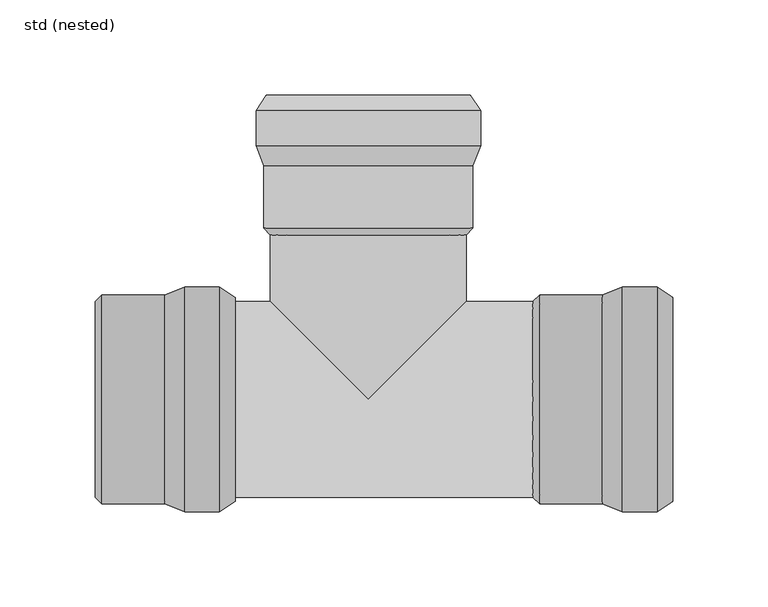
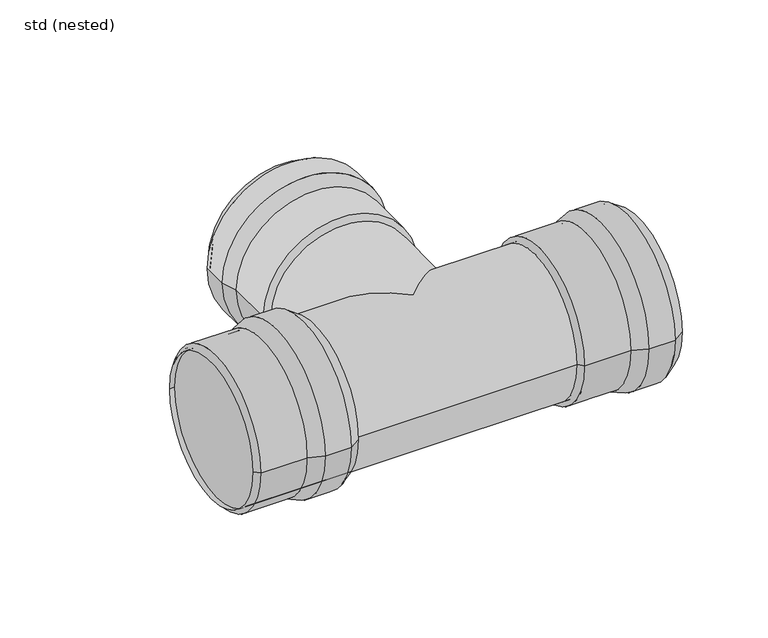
"""IFC4 building model written with IfcOpenShell, lengths in millimetres: pipe fitting geometry, ZZZ_do not use_PIF_ST_UN_GM-X single branch_ACO : std (nested)."""

from ifc_helpers import new_model, si_unit, frame, origin, place, context, project, spatial, polyline, circle_curve, ellipse_curve, source, transform, mapped, element, save
from ifc_brep_helpers import plane_surface, cylinder_surface, revolved_surface, advanced_brep


def std_nested_a7445f1e(model_context):
    return source(origin(), model_context, "Body", "AdvancedBrep", [
        advanced_brep(
        [(-96.5, 59.0, 0.0), (-96.5, -59.0, 0.0), (-78.3, -59.0, 0.0), (-78.3, 59.0, 0.0), (-107.0, 55.0, 0.0), (-107.0, -55.0, 0.0), (-70.0, -53.5, 0.0), (-70.0, 53.5, 0.0), (-140.0, 55.0, 0.0), (-140.0, -55.0, 0.0), (-143.5, 51.5, 0.0), (-143.5, -51.5, 0.0), (-140.0, 51.5, 0.0), (-140.0, -51.5, 0.0), (-106.6319487, 53.0, 0.0), (-106.6319487, -53.0, 0.0), (-140.0, -53.0, 0.0), (-140.0, 53.0, 0.0), (-96.1319487, 57.0, 0.0), (-96.1319487, -57.0, 0.0), (-78.9025117, 57.0, 0.0), (-78.9025117, -57.0, 0.0), (-71.1047607, 51.8328156, 0.0), (-71.1047607, -51.8328156, 0.0)],
        [
            (0, 1, circle_curve(frame((-96.5, 0.0, 0.0), z_axis=(1.0, 0.0, 0.0), x_axis=(0.0, -1.0, 0.0)), 59.0)),
            (1, 2),
            (2, 3, circle_curve(frame((-78.3, 0.0, 0.0), z_axis=(-1.0, 0.0, 0.0), x_axis=(0.0, -1.0, 0.0)), 59.0)),
            (3, 0),
            (1, 0, circle_curve(frame((-96.5, 0.0, 0.0), z_axis=(1.0, 0.0, 0.0), x_axis=(0.0, -1.0, 0.0)), 59.0)),
            (3, 2, circle_curve(frame((-78.3, 0.0, 0.0), z_axis=(-1.0, 0.0, 0.0), x_axis=(0.0, -1.0, 0.0)), 59.0)),
            (4, 5, circle_curve(frame((-107.0, 0.0, 0.0), z_axis=(1.0, 0.0, 0.0), x_axis=(0.0, -1.0, 0.0)), 55.0)),
            (5, 1),
            (0, 4),
            (5, 4, circle_curve(frame((-107.0, 0.0, 0.0), z_axis=(1.0, 0.0, 0.0), x_axis=(0.0, -1.0, 0.0)), 55.0)),
            (2, 6),
            (6, 7, circle_curve(frame((-70.0, 0.0, 0.0), z_axis=(-1.0, 0.0, 0.0), x_axis=(0.0, -1.0, 0.0)), 53.5)),
            (7, 3),
            (7, 6, circle_curve(frame((-70.0, 0.0, 0.0), z_axis=(-1.0, 0.0, 0.0), x_axis=(0.0, -1.0, 0.0)), 53.5)),
            (8, 9, circle_curve(frame((-140.0, 0.0, 0.0), z_axis=(1.0, 0.0, 0.0), x_axis=(0.0, -1.0, 0.0)), 55.0)),
            (9, 5),
            (4, 8),
            (9, 8, circle_curve(frame((-140.0, 0.0, 0.0), z_axis=(1.0, 0.0, 0.0), x_axis=(0.0, -1.0, 0.0)), 55.0)),
            (10, 11, circle_curve(frame((-143.5, 0.0, 0.0), z_axis=(1.0, 0.0, 0.0), x_axis=(0.0, -1.0, 0.0)), 51.5)),
            (11, 9),
            (8, 10),
            (11, 10, circle_curve(frame((-143.5, 0.0, 0.0), z_axis=(1.0, 0.0, 0.0), x_axis=(0.0, -1.0, 0.0)), 51.5)),
            (12, 13, circle_curve(frame((-140.0, 0.0, 0.0), z_axis=(1.0, 0.0, 0.0), x_axis=(0.0, -1.0, 0.0)), 51.5)),
            (13, 11),
            (10, 12),
            (13, 12, circle_curve(frame((-140.0, 0.0, 0.0), z_axis=(1.0, 0.0, 0.0), x_axis=(0.0, -1.0, 0.0)), 51.5)),
            (14, 15, circle_curve(frame((-106.6319487, 0.0, 0.0), z_axis=(1.0, 0.0, 0.0), x_axis=(0.0, -1.0, 0.0)), 53.0)),
            (15, 16),
            (16, 17, circle_curve(frame((-140.0, 0.0, 0.0), z_axis=(-1.0, 0.0, 0.0), x_axis=(0.0, -1.0, 0.0)), 53.0)),
            (17, 14),
            (15, 14, circle_curve(frame((-106.6319487, 0.0, 0.0), z_axis=(1.0, 0.0, 0.0), x_axis=(0.0, -1.0, 0.0)), 53.0)),
            (17, 16, circle_curve(frame((-140.0, 0.0, 0.0), z_axis=(-1.0, 0.0, 0.0), x_axis=(0.0, -1.0, 0.0)), 53.0)),
            (18, 19, circle_curve(frame((-96.1319487, 0.0, 0.0), z_axis=(1.0, 0.0, 0.0), x_axis=(0.0, -1.0, 0.0)), 57.0)),
            (19, 15),
            (14, 18),
            (19, 18, circle_curve(frame((-96.1319487, 0.0, 0.0), z_axis=(1.0, 0.0, 0.0), x_axis=(0.0, -1.0, 0.0)), 57.0)),
            (20, 21, circle_curve(frame((-78.9025117, 0.0, 0.0), z_axis=(1.0, 0.0, 0.0), x_axis=(0.0, -1.0, 0.0)), 57.0)),
            (21, 19),
            (18, 20),
            (21, 20, circle_curve(frame((-78.9025117, 0.0, 0.0), z_axis=(1.0, 0.0, 0.0), x_axis=(0.0, -1.0, 0.0)), 57.0)),
            (22, 23, circle_curve(frame((-71.1047607, 0.0, 0.0), z_axis=(1.0, 0.0, 0.0), x_axis=(0.0, -1.0, 0.0)), 51.8328156)),
            (23, 21),
            (20, 22),
            (23, 22, circle_curve(frame((-71.1047607, 0.0, 0.0), z_axis=(1.0, 0.0, 0.0), x_axis=(0.0, -1.0, 0.0)), 51.8328156)),
            (6, 23),
            (22, 7),
            (16, 13),
            (12, 17),
        ],
        [
            cylinder_surface(frame((-73.3555883, 0.0, 0.0), z_axis=(-1.0, 0.0, 0.0), x_axis=(0.0, -1.0, 0.0)), 59.0),
            revolved_surface(polyline([(-96.5, -59.0, 0.0), (-107.0, -55.0, 0.0)]), (-73.3555883, 0.0, 0.0), (-1.0, 0.0, 0.0)),
            revolved_surface(polyline([(-70.0, -53.5, 0.0), (-78.3, -59.0, 0.0)]), (-73.3555883, 0.0, 0.0), (-1.0, 0.0, 0.0)),
            cylinder_surface(frame((-73.3555883, 0.0, 0.0), z_axis=(-1.0, 0.0, 0.0), x_axis=(0.0, -1.0, 0.0)), 55.0),
            revolved_surface(polyline([(-140.0, -55.0, 0.0), (-143.5, -51.5, 0.0)]), (-73.3555883, 0.0, 0.0), (-1.0, 0.0, 0.0)),
            revolved_surface(polyline([(-143.5, -51.5, 0.0), (-140.0, -51.5, 0.0)]), (-73.3555883, 0.0, 0.0), (-1.0, 0.0, 0.0)),
            revolved_surface(polyline([(-140.0, -53.0, 0.0), (-106.6319487, -53.0, 0.0)]), (-73.3555883, 0.0, 0.0), (-1.0, 0.0, 0.0)),
            revolved_surface(polyline([(-106.6319487, -53.0, 0.0), (-96.1319487, -57.0, 0.0)]), (-73.3555883, 0.0, 0.0), (-1.0, 0.0, 0.0)),
            revolved_surface(polyline([(-96.1319487, -57.0, 0.0), (-78.9025117, -57.0, 0.0)]), (-73.3555883, 0.0, 0.0), (-1.0, 0.0, 0.0)),
            revolved_surface(polyline([(-78.9025117, -57.0, 0.0), (-71.1047607, -51.8328156, 0.0)]), (-73.3555883, 0.0, 0.0), (-1.0, 0.0, 0.0)),
            revolved_surface(polyline([(-71.1047607, -51.8328156, 0.0), (-70.0, -53.5, 0.0)]), (-73.3555883, 0.0, 0.0), (-1.0, 0.0, 0.0)),
            plane_surface(frame((-140.0, 0.0, 0.0), z_axis=(1.0, 0.0, 0.0), x_axis=(0.0, -1.0, 0.0))),
        ],
        [
            (0, [[1, 2, 3, 4]]),
            (0, [[5, -4, 6, -2]]),
            (1, [[7, 8, -1, 9]]),
            (1, [[10, -9, -5, -8]]),
            (2, [[-3, 11, 12, 13]]),
            (2, [[-6, -13, 14, -11]]),
            (3, [[15, 16, -7, 17]]),
            (3, [[18, -17, -10, -16]]),
            (4, [[19, 20, -15, 21]]),
            (4, [[22, -21, -18, -20]]),
            (5, [[23, 24, -19, 25]]),
            (5, [[26, -25, -22, -24]]),
            (6, [[27, 28, 29, 30]]),
            (6, [[31, -30, 32, -28]]),
            (7, [[33, 34, -27, 35]]),
            (7, [[36, -35, -31, -34]]),
            (8, [[37, 38, -33, 39]]),
            (8, [[40, -39, -36, -38]]),
            (9, [[41, 42, -37, 43]]),
            (9, [[44, -43, -40, -42]]),
            (10, [[-12, 45, -41, 46]]),
            (10, [[-14, -46, -44, -45]]),
            (11, [[-29, 47, -23, 48]]),
            (11, [[-32, -48, -26, -47]]),
        ],
    ),
        advanced_brep(
        [(133.5, -59.0, 0.0), (133.5, 59.0, 0.0), (151.7, 59.0, 0.0), (151.7, -59.0, 0.0), (123.0, -55.0, 0.0), (123.0, 55.0, 0.0), (160.0, 53.5, 0.0), (160.0, -53.5, 0.0), (90.0, -55.0, 0.0), (90.0, 55.0, 0.0), (86.5, -51.5, 0.0), (86.5, 51.5, 0.0), (90.0, -51.5, 0.0), (90.0, 51.5, 0.0), (123.3680513, -53.0, 0.0), (123.3680513, 53.0, 0.0), (90.0, 53.0, 0.0), (90.0, -53.0, 0.0), (133.8680513, -57.0, 0.0), (133.8680513, 57.0, 0.0), (151.0974883, -57.0, 0.0), (151.0974883, 57.0, 0.0), (158.8952393, -51.8328156, 0.0), (158.8952393, 51.8328156, 0.0)],
        [
            (0, 1, circle_curve(frame((133.5, 0.0, 0.0), z_axis=(1.0, 0.0, 0.0), x_axis=(0.0, 1.0, 0.0)), 59.0)),
            (1, 2),
            (2, 3, circle_curve(frame((151.7, 0.0, 0.0), z_axis=(-1.0, 0.0, 0.0), x_axis=(0.0, 1.0, 0.0)), 59.0)),
            (3, 0),
            (1, 0, circle_curve(frame((133.5, 0.0, 0.0), z_axis=(1.0, 0.0, 0.0), x_axis=(0.0, 1.0, 0.0)), 59.0)),
            (3, 2, circle_curve(frame((151.7, 0.0, 0.0), z_axis=(-1.0, 0.0, 0.0), x_axis=(0.0, 1.0, 0.0)), 59.0)),
            (4, 5, circle_curve(frame((123.0, 0.0, 0.0), z_axis=(1.0, 0.0, 0.0), x_axis=(0.0, 1.0, 0.0)), 55.0)),
            (5, 1),
            (0, 4),
            (5, 4, circle_curve(frame((123.0, 0.0, 0.0), z_axis=(1.0, 0.0, 0.0), x_axis=(0.0, 1.0, 0.0)), 55.0)),
            (2, 6),
            (6, 7, circle_curve(frame((160.0, 0.0, 0.0), z_axis=(-1.0, 0.0, 0.0), x_axis=(0.0, 1.0, 0.0)), 53.5)),
            (7, 3),
            (7, 6, circle_curve(frame((160.0, 0.0, 0.0), z_axis=(-1.0, 0.0, 0.0), x_axis=(0.0, 1.0, 0.0)), 53.5)),
            (8, 9, circle_curve(frame((90.0, 0.0, 0.0), z_axis=(1.0, 0.0, 0.0), x_axis=(0.0, 1.0, 0.0)), 55.0)),
            (9, 5),
            (4, 8),
            (9, 8, circle_curve(frame((90.0, 0.0, 0.0), z_axis=(1.0, 0.0, 0.0), x_axis=(0.0, 1.0, 0.0)), 55.0)),
            (10, 11, circle_curve(frame((86.5, 0.0, 0.0), z_axis=(1.0, 0.0, 0.0), x_axis=(0.0, 1.0, 0.0)), 51.5)),
            (11, 9),
            (8, 10),
            (11, 10, circle_curve(frame((86.5, 0.0, 0.0), z_axis=(1.0, 0.0, 0.0), x_axis=(0.0, 1.0, 0.0)), 51.5)),
            (12, 13, circle_curve(frame((90.0, 0.0, 0.0), z_axis=(1.0, 0.0, 0.0), x_axis=(0.0, 1.0, 0.0)), 51.5)),
            (13, 11),
            (10, 12),
            (13, 12, circle_curve(frame((90.0, 0.0, 0.0), z_axis=(1.0, 0.0, 0.0), x_axis=(0.0, 1.0, 0.0)), 51.5)),
            (14, 15, circle_curve(frame((123.3680513, 0.0, 0.0), z_axis=(1.0, 0.0, 0.0), x_axis=(0.0, 1.0, 0.0)), 53.0)),
            (15, 16),
            (16, 17, circle_curve(frame((90.0, 0.0, 0.0), z_axis=(-1.0, 0.0, 0.0), x_axis=(0.0, 1.0, 0.0)), 53.0)),
            (17, 14),
            (15, 14, circle_curve(frame((123.3680513, 0.0, 0.0), z_axis=(1.0, 0.0, 0.0), x_axis=(0.0, 1.0, 0.0)), 53.0)),
            (17, 16, circle_curve(frame((90.0, 0.0, 0.0), z_axis=(-1.0, 0.0, 0.0), x_axis=(0.0, 1.0, 0.0)), 53.0)),
            (18, 19, circle_curve(frame((133.8680513, 0.0, 0.0), z_axis=(1.0, 0.0, 0.0), x_axis=(0.0, 1.0, 0.0)), 57.0)),
            (19, 15),
            (14, 18),
            (19, 18, circle_curve(frame((133.8680513, 0.0, 0.0), z_axis=(1.0, 0.0, 0.0), x_axis=(0.0, 1.0, 0.0)), 57.0)),
            (20, 21, circle_curve(frame((151.0974883, 0.0, 0.0), z_axis=(1.0, 0.0, 0.0), x_axis=(0.0, 1.0, 0.0)), 57.0)),
            (21, 19),
            (18, 20),
            (21, 20, circle_curve(frame((151.0974883, 0.0, 0.0), z_axis=(1.0, 0.0, 0.0), x_axis=(0.0, 1.0, 0.0)), 57.0)),
            (22, 23, circle_curve(frame((158.8952393, 0.0, 0.0), z_axis=(1.0, 0.0, 0.0), x_axis=(0.0, 1.0, 0.0)), 51.8328156)),
            (23, 21),
            (20, 22),
            (23, 22, circle_curve(frame((158.8952393, 0.0, 0.0), z_axis=(1.0, 0.0, 0.0), x_axis=(0.0, 1.0, 0.0)), 51.8328156)),
            (6, 23),
            (22, 7),
            (16, 13),
            (12, 17),
        ],
        [
            cylinder_surface(frame((156.6444117, 0.0, 0.0), z_axis=(-1.0, 0.0, 0.0), x_axis=(0.0, 1.0, 0.0)), 59.0),
            revolved_surface(polyline([(133.5, 59.0, 0.0), (123.0, 55.0, 0.0)]), (156.6444117, 0.0, 0.0), (-1.0, 0.0, 0.0)),
            revolved_surface(polyline([(160.0, 53.5, 0.0), (151.7, 59.0, 0.0)]), (156.6444117, 0.0, 0.0), (-1.0, 0.0, 0.0)),
            cylinder_surface(frame((156.6444117, 0.0, 0.0), z_axis=(-1.0, 0.0, 0.0), x_axis=(0.0, 1.0, 0.0)), 55.0),
            revolved_surface(polyline([(90.0, 55.0, 0.0), (86.5, 51.5, 0.0)]), (156.6444117, 0.0, 0.0), (-1.0, 0.0, 0.0)),
            revolved_surface(polyline([(86.5, 51.5, 0.0), (90.0, 51.5, 0.0)]), (156.6444117, 0.0, 0.0), (-1.0, 0.0, 0.0)),
            revolved_surface(polyline([(90.0, 53.0, 0.0), (123.3680513, 53.0, 0.0)]), (156.6444117, 0.0, 0.0), (-1.0, 0.0, 0.0)),
            revolved_surface(polyline([(123.3680513, 53.0, 0.0), (133.8680513, 57.0, 0.0)]), (156.6444117, 0.0, 0.0), (-1.0, 0.0, 0.0)),
            revolved_surface(polyline([(133.8680513, 57.0, 0.0), (151.0974883, 57.0, 0.0)]), (156.6444117, 0.0, 0.0), (-1.0, 0.0, 0.0)),
            revolved_surface(polyline([(151.0974883, 57.0, 0.0), (158.8952393, 51.8328156, 0.0)]), (156.6444117, 0.0, 0.0), (-1.0, 0.0, 0.0)),
            revolved_surface(polyline([(158.8952393, 51.8328156, 0.0), (160.0, 53.5, 0.0)]), (156.6444117, 0.0, 0.0), (-1.0, 0.0, 0.0)),
            plane_surface(frame((90.0, 0.0, 0.0), z_axis=(1.0, 0.0, 0.0), x_axis=(0.0, 1.0, 0.0))),
        ],
        [
            (0, [[1, 2, 3, 4]]),
            (0, [[5, -4, 6, -2]]),
            (1, [[7, 8, -1, 9]]),
            (1, [[10, -9, -5, -8]]),
            (2, [[-3, 11, 12, 13]]),
            (2, [[-6, -13, 14, -11]]),
            (3, [[15, 16, -7, 17]]),
            (3, [[18, -17, -10, -16]]),
            (4, [[19, 20, -15, 21]]),
            (4, [[22, -21, -18, -20]]),
            (5, [[23, 24, -19, 25]]),
            (5, [[26, -25, -22, -24]]),
            (6, [[27, 28, 29, 30]]),
            (6, [[31, -30, 32, -28]]),
            (7, [[33, 34, -27, 35]]),
            (7, [[36, -35, -31, -34]]),
            (8, [[37, 38, -33, 39]]),
            (8, [[40, -39, -36, -38]]),
            (9, [[41, 42, -37, 43]]),
            (9, [[44, -43, -40, -42]]),
            (10, [[-12, 45, -41, 46]]),
            (10, [[-14, -46, -44, -45]]),
            (11, [[-29, 47, -23, 48]]),
            (11, [[-32, -48, -26, -47]]),
        ],
    ),
        advanced_brep(
        [(59.0003982, 133.499824, 0.0), (-58.9996018, 133.500176, 0.0), (-58.9995475, 151.700176, 0.0), (59.0004525, 151.699824, 0.0), (55.0003669, 122.9998359, 0.0), (-54.9996331, 123.0001641, 0.0), (-53.4995227, 160.0001596, 0.0), (53.5004773, 159.9998404, 0.0), (55.0002685, 89.9998359, 0.0), (-54.9997315, 90.0001641, 0.0), (51.500258, 86.4998464, 0.0), (-51.499742, 86.5001536, 0.0), (51.5002685, 89.9998464, 0.0), (-51.4997315, 90.0001536, 0.0), (53.000368, 123.3678932, 0.0), (-52.999632, 123.3682094, 0.0), (-52.9997315, 90.0001581, 0.0), (53.0002685, 89.9998419, 0.0), (57.0003993, 133.8678812, 0.0), (-56.9996007, 133.8682213, 0.0), (57.0004507, 151.0973183, 0.0), (-56.9995493, 151.0976583, 0.0), (51.8332896, 158.8950847, 0.0), (-51.8323416, 158.8953939, 0.0)],
        [
            (0, 1, circle_curve(frame((0.0003982, 133.5, 0.0), z_axis=(2.9830069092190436e-06, 0.9999999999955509, 0.0), x_axis=(-0.9999999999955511, 2.9830069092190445e-06, 0.0)), 59.0)),
            (1, 2),
            (2, 3, circle_curve(frame((0.0004525, 151.7, 0.0), z_axis=(-2.9830069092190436e-06, -0.9999999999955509, 0.0), x_axis=(-0.9999999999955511, 2.9830069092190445e-06, 0.0)), 59.0)),
            (3, 0),
            (1, 0, circle_curve(frame((0.0003982, 133.5, 0.0), z_axis=(2.9830069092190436e-06, 0.9999999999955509, 0.0), x_axis=(-0.9999999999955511, 2.9830069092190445e-06, 0.0)), 59.0)),
            (3, 2, circle_curve(frame((0.0004525, 151.7, 0.0), z_axis=(-2.9830069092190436e-06, -0.9999999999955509, 0.0), x_axis=(-0.9999999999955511, 2.9830069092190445e-06, 0.0)), 59.0)),
            (4, 5, circle_curve(frame((0.0003669, 123.0, 0.0), z_axis=(2.9830069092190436e-06, 0.9999999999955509, 0.0), x_axis=(-0.9999999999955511, 2.9830069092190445e-06, 0.0)), 55.0)),
            (5, 1),
            (0, 4),
            (5, 4, circle_curve(frame((0.0003669, 123.0, 0.0), z_axis=(2.9830069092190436e-06, 0.9999999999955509, 0.0), x_axis=(-0.9999999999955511, 2.9830069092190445e-06, 0.0)), 55.0)),
            (2, 6),
            (6, 7, circle_curve(frame((0.0004773, 160.0, 0.0), z_axis=(-2.9830069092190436e-06, -0.9999999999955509, 0.0), x_axis=(-0.9999999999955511, 2.9830069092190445e-06, 0.0)), 53.5)),
            (7, 3),
            (7, 6, circle_curve(frame((0.0004773, 160.0, 0.0), z_axis=(-2.9830069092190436e-06, -0.9999999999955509, 0.0), x_axis=(-0.9999999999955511, 2.9830069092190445e-06, 0.0)), 53.5)),
            (8, 9, circle_curve(frame((0.0002685, 90.0, 0.0), z_axis=(2.9830069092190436e-06, 0.9999999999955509, 0.0), x_axis=(-0.9999999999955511, 2.9830069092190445e-06, 0.0)), 55.0)),
            (9, 5),
            (4, 8),
            (9, 8, circle_curve(frame((0.0002685, 90.0, 0.0), z_axis=(2.9830069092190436e-06, 0.9999999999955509, 0.0), x_axis=(-0.9999999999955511, 2.9830069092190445e-06, 0.0)), 55.0)),
            (10, 11, circle_curve(frame((0.000258, 86.5, 0.0), z_axis=(2.9830069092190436e-06, 0.9999999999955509, 0.0), x_axis=(-0.9999999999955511, 2.9830069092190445e-06, 0.0)), 51.5)),
            (11, 9),
            (8, 10),
            (11, 10, circle_curve(frame((0.000258, 86.5, 0.0), z_axis=(2.9830069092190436e-06, 0.9999999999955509, 0.0), x_axis=(-0.9999999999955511, 2.9830069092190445e-06, 0.0)), 51.5)),
            (12, 13, circle_curve(frame((0.0002685, 90.0, 0.0), z_axis=(2.9830069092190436e-06, 0.9999999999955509, 0.0), x_axis=(-0.9999999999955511, 2.9830069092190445e-06, 0.0)), 51.5)),
            (13, 11),
            (10, 12),
            (13, 12, circle_curve(frame((0.0002685, 90.0, 0.0), z_axis=(2.9830069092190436e-06, 0.9999999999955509, 0.0), x_axis=(-0.9999999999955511, 2.9830069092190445e-06, 0.0)), 51.5)),
            (14, 15, circle_curve(frame((0.000368, 123.3680513, 0.0), z_axis=(2.9830069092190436e-06, 0.9999999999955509, 0.0), x_axis=(-0.9999999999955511, 2.9830069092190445e-06, 0.0)), 53.0)),
            (15, 16),
            (16, 17, circle_curve(frame((0.0002685, 90.0, 0.0), z_axis=(-2.9830069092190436e-06, -0.9999999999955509, 0.0), x_axis=(-0.9999999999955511, 2.9830069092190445e-06, 0.0)), 53.0)),
            (17, 14),
            (15, 14, circle_curve(frame((0.000368, 123.3680513, 0.0), z_axis=(2.9830069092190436e-06, 0.9999999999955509, 0.0), x_axis=(-0.9999999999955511, 2.9830069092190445e-06, 0.0)), 53.0)),
            (17, 16, circle_curve(frame((0.0002685, 90.0, 0.0), z_axis=(-2.9830069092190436e-06, -0.9999999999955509, 0.0), x_axis=(-0.9999999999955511, 2.9830069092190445e-06, 0.0)), 53.0)),
            (18, 19, circle_curve(frame((0.0003993, 133.8680513, 0.0), z_axis=(2.9830069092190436e-06, 0.9999999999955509, 0.0), x_axis=(-0.9999999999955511, 2.9830069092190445e-06, 0.0)), 57.0)),
            (19, 15),
            (14, 18),
            (19, 18, circle_curve(frame((0.0003993, 133.8680513, 0.0), z_axis=(2.9830069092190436e-06, 0.9999999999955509, 0.0), x_axis=(-0.9999999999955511, 2.9830069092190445e-06, 0.0)), 57.0)),
            (20, 21, circle_curve(frame((0.0004507, 151.0974883, 0.0), z_axis=(2.9830069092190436e-06, 0.9999999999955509, 0.0), x_axis=(-0.9999999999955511, 2.9830069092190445e-06, 0.0)), 57.0)),
            (21, 19),
            (18, 20),
            (21, 20, circle_curve(frame((0.0004507, 151.0974883, 0.0), z_axis=(2.9830069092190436e-06, 0.9999999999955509, 0.0), x_axis=(-0.9999999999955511, 2.9830069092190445e-06, 0.0)), 57.0)),
            (22, 23, circle_curve(frame((0.000474, 158.8952393, 0.0), z_axis=(2.9830069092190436e-06, 0.9999999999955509, 0.0), x_axis=(-0.9999999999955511, 2.9830069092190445e-06, 0.0)), 51.8328156)),
            (23, 21),
            (20, 22),
            (23, 22, circle_curve(frame((0.000474, 158.8952393, 0.0), z_axis=(2.9830069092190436e-06, 0.9999999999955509, 0.0), x_axis=(-0.9999999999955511, 2.9830069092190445e-06, 0.0)), 51.8328156)),
            (6, 23),
            (22, 7),
            (16, 13),
            (12, 17),
        ],
        [
            cylinder_surface(frame((0.0004673, 156.6444117, 0.0), z_axis=(-2.9830069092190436e-06, -0.9999999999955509, 0.0), x_axis=(-0.9999999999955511, 2.9830069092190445e-06, 0.0)), 59.0),
            revolved_surface(polyline([(-58.9996018, 133.500176, 0.0), (-54.9996331, 123.0001641, 0.0)]), (0.0004673, 156.6444117, 0.0), (-2.9830069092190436e-06, -0.9999999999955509, 0.0)),
            revolved_surface(polyline([(-53.4995227, 160.0001596, 0.0), (-58.9995475, 151.700176, 0.0)]), (0.0004673, 156.6444117, 0.0), (-2.9830069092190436e-06, -0.9999999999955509, 0.0)),
            cylinder_surface(frame((0.0004673, 156.6444117, 0.0), z_axis=(-2.9830069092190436e-06, -0.9999999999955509, 0.0), x_axis=(-0.9999999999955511, 2.9830069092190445e-06, 0.0)), 55.0),
            revolved_surface(polyline([(-54.9997315, 90.0001641, 0.0), (-51.499742, 86.5001536, 0.0)]), (0.0004673, 156.6444117, 0.0), (-2.9830069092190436e-06, -0.9999999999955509, 0.0)),
            revolved_surface(polyline([(-51.49974194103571, 86.50015359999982, 0.0), (-51.49973150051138, 90.00015364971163, 0.0)]), (0.0004673, 156.6444117, 0.0), (-2.9830069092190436e-06, -0.9999999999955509, 0.0)),
            revolved_surface(polyline([(-52.99973150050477, 90.00015809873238, 0.0), (-52.9996319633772, 123.36820939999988, 0.0)]), (0.0004673, 156.6444117, 0.0), (-2.9830069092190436e-06, -0.9999999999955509, 0.0)),
            revolved_surface(polyline([(-52.999632, 123.3682094, 0.0), (-56.9996007, 133.8682213, 0.0)]), (0.0004673, 156.6444117, 0.0), (-2.9830069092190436e-06, -0.9999999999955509, 0.0)),
            revolved_surface(polyline([(-56.99960064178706, 133.86822126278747, 0.0), (-56.99954924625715, 151.0976583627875, 0.0)]), (0.0004673, 156.6444117, 0.0), (-2.9830069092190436e-06, -0.9999999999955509, 0.0)),
            revolved_surface(polyline([(-56.9995493, 151.0976583, 0.0), (-51.8323416, 158.8953939, 0.0)]), (0.0004673, 156.6444117, 0.0), (-2.9830069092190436e-06, -0.9999999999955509, 0.0)),
            revolved_surface(polyline([(-51.8323416, 158.8953939, 0.0), (-53.4995227, 160.0001596, 0.0)]), (0.0004673, 156.6444117, 0.0), (-2.9830069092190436e-06, -0.9999999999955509, 0.0)),
            plane_surface(frame((0.0002685, 90.0, 0.0), z_axis=(2.9830069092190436e-06, 0.9999999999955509, 0.0), x_axis=(-0.9999999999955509, 2.9830069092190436e-06, 0.0))),
        ],
        [
            (0, [[1, 2, 3, 4]]),
            (0, [[5, -4, 6, -2]]),
            (1, [[7, 8, -1, 9]]),
            (1, [[10, -9, -5, -8]]),
            (2, [[-3, 11, 12, 13]]),
            (2, [[-6, -13, 14, -11]]),
            (3, [[15, 16, -7, 17]]),
            (3, [[18, -17, -10, -16]]),
            (4, [[19, 20, -15, 21]]),
            (4, [[22, -21, -18, -20]]),
            (5, [[23, 24, -19, 25]]),
            (5, [[26, -25, -22, -24]]),
            (6, [[27, 28, 29, 30]]),
            (6, [[31, -30, 32, -28]]),
            (7, [[33, 34, -27, 35]]),
            (7, [[36, -35, -31, -34]]),
            (8, [[37, 38, -33, 39]]),
            (8, [[40, -39, -36, -38]]),
            (9, [[41, 42, -37, 43]]),
            (9, [[44, -43, -40, -42]]),
            (10, [[-12, 45, -41, 46]]),
            (10, [[-14, -46, -44, -45]]),
            (11, [[-29, 47, -23, 48]]),
            (11, [[-32, -48, -26, -47]]),
        ],
    ),
        advanced_brep(
        [(90.0, -51.5, 0.0), (90.0, 51.5, 0.0), (-140.0, -51.5, 0.0), (-140.0, 51.5, 0.0), (-51.4998464, 51.5, 0.0), (0.0, 0.0, -51.5), (51.5001536, 51.5, 0.0), (0.0, 0.0, 51.5), (51.5002685, 89.9998464, 0.0), (-51.4997315, 90.0001536, 0.0)],
        [
            (0, 1, circle_curve(frame((90.0, 0.0, 0.0), z_axis=(1.0, 0.0, 0.0), x_axis=(0.0, 1.0, 0.0)), 51.5)),
            (1, 0, circle_curve(frame((90.0, 0.0, 0.0), z_axis=(1.0, 0.0, 0.0), x_axis=(0.0, 1.0, 0.0)), 51.5)),
            (2, 3, circle_curve(frame((-140.0, 0.0, 0.0), z_axis=(-1.0, 0.0, 0.0), x_axis=(0.0, 1.0, 0.0)), 51.5)),
            (3, 2, circle_curve(frame((-140.0, 0.0, 0.0), z_axis=(-1.0, 0.0, 0.0), x_axis=(0.0, 1.0, 0.0)), 51.5)),
            (0, 2),
            (3, 4),
            (4, 5, ellipse_curve(frame((0.0, 0.0, 0.0), z_axis=(-0.7071078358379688, -0.7071057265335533, 0.0), x_axis=(0.7071057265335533, -0.7071078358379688, 0.0)), 72.8318898, 51.5)),
            (5, 6, ellipse_curve(frame((0.0, 0.0, 0.0), z_axis=(0.7071057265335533, -0.7071078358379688, 0.0), x_axis=(0.7071078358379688, 0.7071057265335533, 0.0)), 72.8321071, 51.5)),
            (6, 1),
            (6, 7, ellipse_curve(frame((0.0, 0.0, 0.0), z_axis=(0.7071057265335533, -0.7071078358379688, 0.0), x_axis=(0.7071078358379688, 0.7071057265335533, 0.0)), 72.8321071, 51.5)),
            (7, 4, ellipse_curve(frame((0.0, 0.0, 0.0), z_axis=(-0.7071078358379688, -0.7071057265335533, 0.0), x_axis=(0.7071057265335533, -0.7071078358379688, 0.0)), 72.8318898, 51.5)),
            (8, 9, circle_curve(frame((0.0002685, 90.0, 0.0), z_axis=(2.9830069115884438e-06, 0.9999999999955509, 0.0), x_axis=(-0.9999999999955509, 2.9830069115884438e-06, 0.0)), 51.5)),
            (9, 8, circle_curve(frame((0.0002685, 90.0, 0.0), z_axis=(2.9830069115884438e-06, 0.9999999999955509, 0.0), x_axis=(-0.9999999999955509, 2.9830069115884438e-06, 0.0)), 51.5)),
            (9, 4),
            (6, 8),
        ],
        [
            plane_surface(frame((90.0, 51.5, 0.0), z_axis=(1.0, 0.0, 0.0), x_axis=(0.0, 0.0, 1.0))),
            plane_surface(frame((-140.0, 51.5, 0.0), z_axis=(-1.0, 0.0, 0.0), x_axis=(0.0, 0.0, -1.0))),
            cylinder_surface(frame((-140.0, 0.0, 0.0), z_axis=(1.0, 0.0, 0.0), x_axis=(0.0, 1.0, 0.0)), 51.5),
            plane_surface(frame((0.0002685, 90.0, 0.0), z_axis=(2.983006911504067e-06, 0.9999999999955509, 0.0), x_axis=(0.0, 0.0, 1.0))),
            cylinder_surface(frame((0.0, 0.0, 0.0), z_axis=(-2.9830069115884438e-06, -0.9999999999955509, 0.0), x_axis=(-0.9999999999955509, 2.9830069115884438e-06, 0.0)), 51.5),
        ],
        [
            (0, [[1, 2]]),
            (1, [[3, 4]]),
            (2, [[-1, 5, -4, 6, 7, 8, 9]]),
            (2, [[-2, -9, 10, 11, -6, -3, -5]]),
            (3, [[12, 13]]),
            (4, [[-13, 14, -11, -10, 15]]),
            (4, [[-12, -15, -8, -7, -14]]),
        ],
    ),
    ])


if __name__ == "__main__":
    model = new_model("IFC4")
    model_context = context("Model", 3, world=origin())
    ifc_project = project(units=[si_unit("LENGTHUNIT", "METRE", prefix="MILLI")], contexts=[model_context])
    site = spatial("IfcSite", under=ifc_project)
    building = spatial("IfcBuilding", under=site)
    placement = place(None, origin())
    std_nested_shape = std_nested_a7445f1e(model_context)
    element("IfcPipeFitting", 1, ObjectType="ZZZ_do not use_PIF_ST_UN_GM-X single branch_ACO : std (nested)", at=placement, inside=building, context=model_context, shape_type="MappedRepresentation", body=[
        mapped(std_nested_shape, transform((0.0, 0.0, 0.0), x_axis=(1.0, 0.0, 0.0), y_axis=(0.0, 1.0, 0.0), z_axis=(0.0, 0.0, 1.0))),
    ])
    save(model, "model.ifc")
